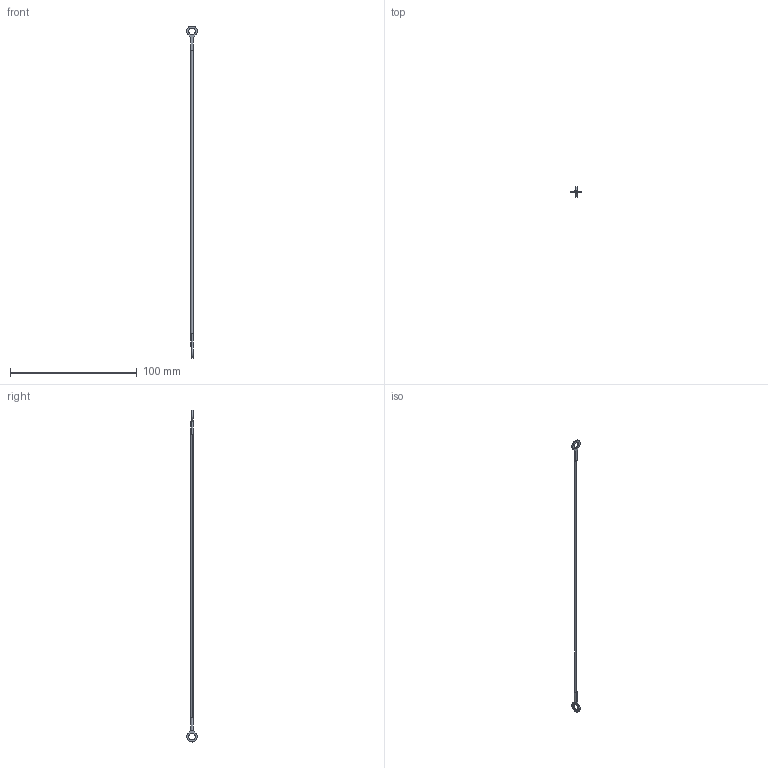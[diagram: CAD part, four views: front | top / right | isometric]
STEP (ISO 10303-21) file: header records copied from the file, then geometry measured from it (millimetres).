
FILE_DESCRIPTION (( 'STEP AP203' ), '1' );
FILE_NAME ('LA1070.I06-254N1.step', '2026-03-23T14:50:59', ( '' ), ( '' ), 'SwSTEP 2.0', 'SolidWorks 2019', '' );
FILE_SCHEMA (( 'CONFIG_CONTROL_DESIGN' ));
Length unit declared in the file: millimetre
Products named in the file (1): LA1070.I06-254N1
Bounding box: 8.36 x 8.35 x 262.36 mm (x, y, z)
Volume: 595.4 mm3; surface area: 1503.3 mm2
Topology: 1 solids, 1 shells, 27 faces, 61 edges, 38 vertices
Faces by surface type: plane 16, cylinder 11
Entity records: 852 total; most frequent: CARTESIAN_POINT 151, DIRECTION 133, ORIENTED_EDGE 122, EDGE_CURVE 61, AXIS2_PLACEMENT_3D 48, VERTEX_POINT 38, VECTOR 37, LINE 37
